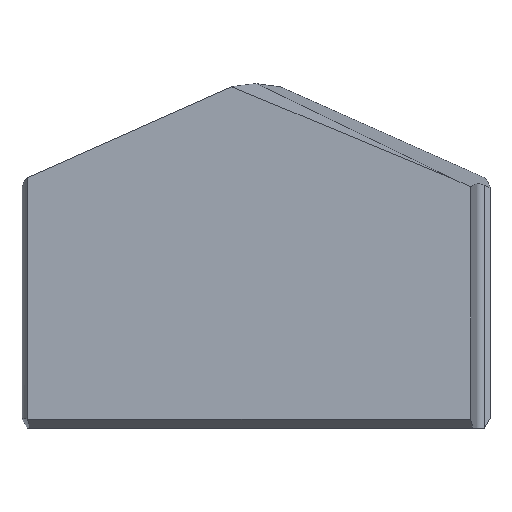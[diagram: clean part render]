
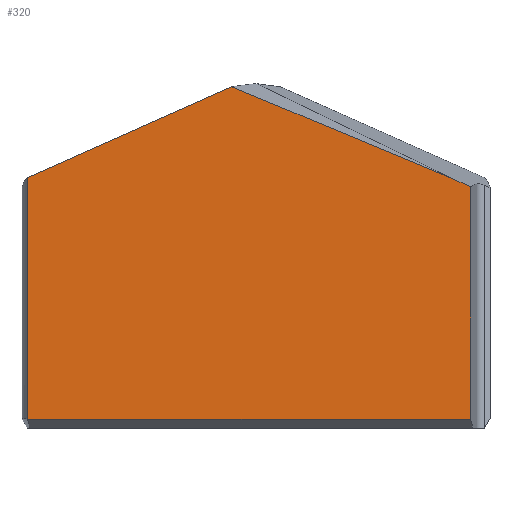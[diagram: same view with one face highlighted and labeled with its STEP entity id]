
A CAD part, top view. The second image highlights one B-rep face of the part: STEP entity #320.
In plain terms, the highlighted planar face has unit normal (0, 0, 1).
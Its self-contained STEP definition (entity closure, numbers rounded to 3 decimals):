
#8 = LINE ( 'NONE', #75, #247 ) ;
#12 = ORIENTED_EDGE ( 'NONE', *, *, #556, .F. ) ;
#19 = CARTESIAN_POINT ( 'NONE',  ( -7.368, 8.069, 3.2 ) ) ;
#25 = EDGE_CURVE ( 'NONE', #422, #424, #480, .T. ) ;
#28 = ORIENTED_EDGE ( 'NONE', *, *, #622, .T. ) ;
#32 = AXIS2_PLACEMENT_3D ( 'NONE', #291, #61, #504 ) ;
#52 = CARTESIAN_POINT ( 'NONE',  ( -7.362, 0.289, 3.2 ) ) ;
#58 = CARTESIAN_POINT ( 'NONE',  ( -7.368, 0.3, 3.2 ) ) ;
#61 = DIRECTION ( 'NONE',  ( 0., 0., 1. ) ) ;
#75 = CARTESIAN_POINT ( 'NONE',  ( 4.034, 9.061, 3.2 ) ) ;
#79 = CARTESIAN_POINT ( 'NONE',  ( -7.368, 0., 3.2 ) ) ;
#89 = DIRECTION ( 'NONE',  ( -0.914, -0.407, 0. ) ) ;
#93 = FACE_OUTER_BOUND ( 'NONE', #343, .T. ) ;
#97 = CARTESIAN_POINT ( 'NONE',  ( 6.912, 0.289, 3.2 ) ) ;
#100 = ORIENTED_EDGE ( 'NONE', *, *, #564, .T. ) ;
#103 = PLANE ( 'NONE',  #32 ) ;
#105 = CARTESIAN_POINT ( 'NONE',  ( 7.191, 0.289, 3.2 ) ) ;
#110 = VECTOR ( 'NONE', #577, 1000. ) ;
#112 = LINE ( 'NONE', #105, #533 ) ;
#127 = EDGE_CURVE ( 'NONE', #148, #422, #313, .T. ) ;
#139 = CARTESIAN_POINT ( 'NONE',  ( -7.366, 0.296, 3.2 ) ) ;
#147 = ORIENTED_EDGE ( 'NONE', *, *, #445, .T. ) ;
#148 = VERTEX_POINT ( 'NONE', #282 ) ;
#177 = VECTOR ( 'NONE', #534, 1000. ) ;
#218 = VERTEX_POINT ( 'NONE', #434 ) ;
#224 = DIRECTION ( 'NONE',  ( -0.914, 0.407, 0. ) ) ;
#243 = CARTESIAN_POINT ( 'NONE',  ( 6.912, 7.78, 3.2 ) ) ;
#247 = VECTOR ( 'NONE', #224, 1000. ) ;
#256 = LINE ( 'NONE', #576, #512 ) ;
#273 = ORIENTED_EDGE ( 'NONE', *, *, #127, .T. ) ;
#282 = CARTESIAN_POINT ( 'NONE',  ( 6.302, 8.052, 3.2 ) ) ;
#291 = CARTESIAN_POINT ( 'NONE',  ( 0., 0., 3.2 ) ) ;
#293 = VERTEX_POINT ( 'NONE', #243 ) ;
#298 = CARTESIAN_POINT ( 'NONE',  ( -7.368, 0.3, 3.2 ) ) ;
#311 = VERTEX_POINT ( 'NONE', #298 ) ;
#312 = CARTESIAN_POINT ( 'NONE',  ( -0.781, 11.002, 3.2 ) ) ;
#313 = LINE ( 'NONE', #582, #177 ) ;
#320 = ADVANCED_FACE ( 'NONE', ( #93 ), #103, .T. ) ;
#329 = CARTESIAN_POINT ( 'NONE',  ( 0., 11.35, 3.2 ) ) ;
#343 = EDGE_LOOP ( 'NONE', ( #360, #273, #394, #12, #100, #28, #147 ) ) ;
#360 = ORIENTED_EDGE ( 'NONE', *, *, #527, .T. ) ;
#362 = B_SPLINE_CURVE_WITH_KNOTS ( 'NONE', 3,
 ( #58, #139, #543, #52 ),
 .UNSPECIFIED., .F., .F.,
 ( 4, 4 ),
 ( 0., 0. ),
 .UNSPECIFIED. ) ;
#370 = LINE ( 'NONE', #79, #110 ) ;
#394 = ORIENTED_EDGE ( 'NONE', *, *, #25, .T. ) ;
#422 = VERTEX_POINT ( 'NONE', #312 ) ;
#424 = VERTEX_POINT ( 'NONE', #19 ) ;
#434 = CARTESIAN_POINT ( 'NONE',  ( -7.362, 0.289, 3.2 ) ) ;
#445 = EDGE_CURVE ( 'NONE', #608, #293, #256, .T. ) ;
#448 = DIRECTION ( 'NONE',  ( 1., 0., 0. ) ) ;
#450 = VECTOR ( 'NONE', #89, 1000. ) ;
#467 = DIRECTION ( 'NONE',  ( 0., 1., 0. ) ) ;
#480 = LINE ( 'NONE', #329, #450 ) ;
#504 = DIRECTION ( 'NONE',  ( 1., 0., 0. ) ) ;
#512 = VECTOR ( 'NONE', #467, 1000. ) ;
#527 = EDGE_CURVE ( 'NONE', #293, #148, #8, .T. ) ;
#533 = VECTOR ( 'NONE', #448, 1000. ) ;
#534 = DIRECTION ( 'NONE',  ( -0.923, 0.384, 0. ) ) ;
#543 = CARTESIAN_POINT ( 'NONE',  ( -7.364, 0.292, 3.2 ) ) ;
#556 = EDGE_CURVE ( 'NONE', #311, #424, #370, .T. ) ;
#564 = EDGE_CURVE ( 'NONE', #311, #218, #362, .T. ) ;
#576 = CARTESIAN_POINT ( 'NONE',  ( 6.912, 0., 3.2 ) ) ;
#577 = DIRECTION ( 'NONE',  ( 0., 1., 0. ) ) ;
#582 = CARTESIAN_POINT ( 'NONE',  ( 3.79, 9.098, 3.2 ) ) ;
#608 = VERTEX_POINT ( 'NONE', #97 ) ;
#622 = EDGE_CURVE ( 'NONE', #218, #608, #112, .T. ) ;
